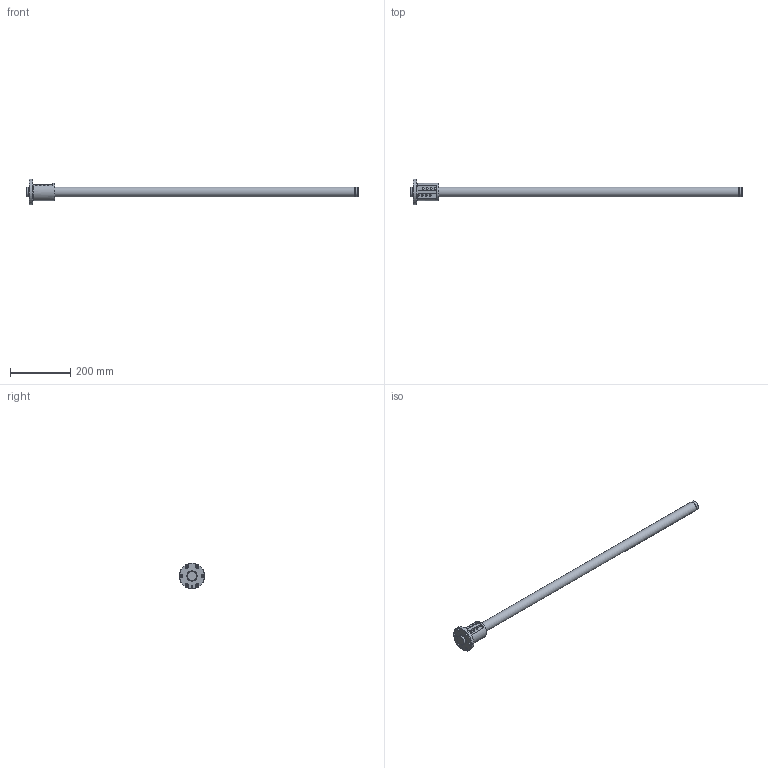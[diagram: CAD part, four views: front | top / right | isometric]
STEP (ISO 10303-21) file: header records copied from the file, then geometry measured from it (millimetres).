
FILE_DESCRIPTION( ( 'STEP AP203' ), ' ' );
FILE_NAME( 'p:/temp/worker_16/3916_4020/app_76_12018011812041536943976818fa3fd_000000_00_00_000000/format_0/BIF3205-10RRG0+1106LC0_10000.stp', '2018-01-18T11:04:16', ( '' ), ( '' ), ' ', 'PARTsolutions', ' ' );
FILE_SCHEMA( ( 'CONFIG_CONTROL_DESIGN' ) );
Length unit declared in the file: millimetre
Products named in the file (3): BIF3205-10RRG0+1106LC0_10000; _BIF 3205-10RR1000500 Shaft; _BIF 3205-10RR Nut
Assembly tree (2 placements, depth 2):
  BIF3205-10RRG0+1106LC0_10000
    _BIF 3205-10RR1000500 Shaft
    _BIF 3205-10RR Nut
Bounding box: 1106 x 85 x 85 mm (x, y, z)
Volume: 1063346.8 mm3; surface area: 151759.7 mm2
Topology: 2 solids, 2 shells, 98 faces, 218 edges, 144 vertices
Faces by surface type: cylinder 47, plane 35, cone 8, torus 8
Full cylindrical faces by diameter (mm): 4.25 x2, 4.917 x1, 5.4 x8, 6.6 x6, 11 x6, 31.5 x2, 32 x4, 34.8 x2, 58 x1, 85 x1
Entity records: 3228 total; most frequent: CARTESIAN_POINT 1035, DIRECTION 456, ORIENTED_EDGE 326, AXIS2_PLACEMENT_3D 208, EDGE_LOOP 191, EDGE_CURVE 163, VERTEX_POINT 137, FACE_OUTER_BOUND 131
